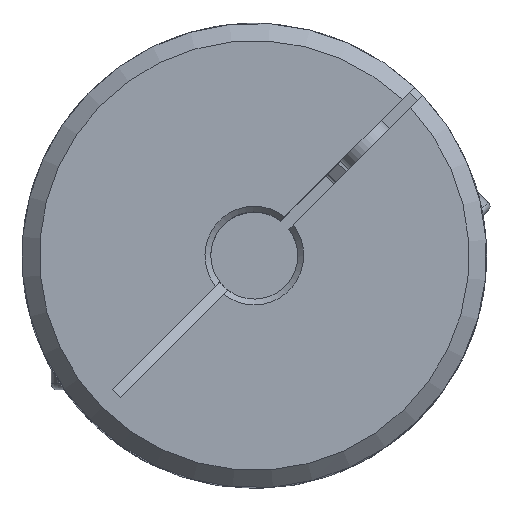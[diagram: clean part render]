
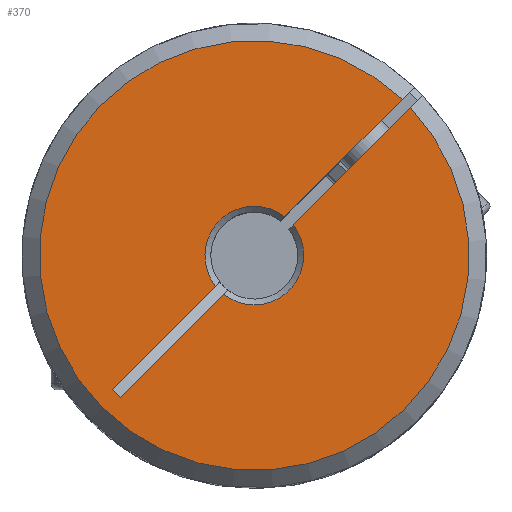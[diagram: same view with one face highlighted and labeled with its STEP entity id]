
A CAD part, top view. The second image highlights one B-rep face of the part: STEP entity #370.
In plain terms, the highlighted planar face has unit normal (0, 0, 1) as drawn and (0, 0, -1) by its records, which use the part's own axes.
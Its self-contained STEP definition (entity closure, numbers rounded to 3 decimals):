
#370 = ADVANCED_FACE( '', ( #716 ), #717, .T. );
#716 = FACE_OUTER_BOUND( '', #1149, .T. );
#717 = PLANE( '', #1150 );
#1149 = EDGE_LOOP( '', ( #1644, #1645, #1646, #1647, #1648, #1649, #1650, #1651 ) );
#1150 = AXIS2_PLACEMENT_3D( '', #1652, #1653, #1654 );
#1644 = ORIENTED_EDGE( '', *, *, #3073, .F. );
#1645 = ORIENTED_EDGE( '', *, *, #3074, .T. );
#1646 = ORIENTED_EDGE( '', *, *, #3075, .T. );
#1647 = ORIENTED_EDGE( '', *, *, #3076, .T. );
#1648 = ORIENTED_EDGE( '', *, *, #3077, .T. );
#1649 = ORIENTED_EDGE( '', *, *, #3070, .T. );
#1650 = ORIENTED_EDGE( '', *, *, #3067, .F. );
#1651 = ORIENTED_EDGE( '', *, *, #3078, .T. );
#1652 = CARTESIAN_POINT( '', ( 0., 0., 0. ) );
#1653 = DIRECTION( '', ( 0., 0., -1. ) );
#1654 = DIRECTION( '', ( -1., 0., 0. ) );
#3067 = EDGE_CURVE( '', #3553, #3556, #3557, .T. );
#3070 = EDGE_CURVE( '', #3561, #3556, #3562, .T. );
#3073 = EDGE_CURVE( '', #3566, #3567, #3568, .T. );
#3074 = EDGE_CURVE( '', #3566, #3569, #3570, .T. );
#3075 = EDGE_CURVE( '', #3569, #3571, #3572, .T. );
#3076 = EDGE_CURVE( '', #3571, #3573, #3574, .F. );
#3077 = EDGE_CURVE( '', #3573, #3561, #3575, .T. );
#3078 = EDGE_CURVE( '', #3553, #3567, #3576, .F. );
#3553 = VERTEX_POINT( '', #4448 );
#3556 = VERTEX_POINT( '', #4454 );
#3557 = LINE( '', #4455, #4456 );
#3561 = VERTEX_POINT( '', #4461 );
#3562 = LINE( '', #4462, #4463 );
#3566 = VERTEX_POINT( '', #4470 );
#3567 = VERTEX_POINT( '', #4471 );
#3568 = LINE( '', #4472, #4473 );
#3569 = VERTEX_POINT( '', #4474 );
#3570 = CIRCLE( '', #4475, 37. );
#3571 = VERTEX_POINT( '', #4476 );
#3572 = LINE( '', #4477, #4478 );
#3573 = VERTEX_POINT( '', #4479 );
#3574 = CIRCLE( '', #4480, 8.5 );
#3575 = LINE( '', #4481, #4482 );
#3576 = CIRCLE( '', #4483, 8.5 );
#4448 = CARTESIAN_POINT( '', ( 8.441, 1., 0. ) );
#4454 = CARTESIAN_POINT( '', ( 33.604, 1., 0. ) );
#4455 = CARTESIAN_POINT( '', ( -40., 1., 0. ) );
#4456 = VECTOR( '', #5505, 1000. );
#4461 = CARTESIAN_POINT( '', ( 33.604, -1., 0. ) );
#4462 = CARTESIAN_POINT( '', ( 33.604, -1., 0. ) );
#4463 = VECTOR( '', #5510, 1000. );
#4470 = CARTESIAN_POINT( '', ( -36.986, 1., 0. ) );
#4471 = CARTESIAN_POINT( '', ( -8.441, 1., 0. ) );
#4472 = CARTESIAN_POINT( '', ( -40., 1., 0. ) );
#4473 = VECTOR( '', #5514, 1000. );
#4474 = CARTESIAN_POINT( '', ( -36.986, -1., 0. ) );
#4475 = AXIS2_PLACEMENT_3D( '', #5515, #5516, #5517 );
#4476 = CARTESIAN_POINT( '', ( -8.441, -1., 0. ) );
#4477 = CARTESIAN_POINT( '', ( -40., -1., 0. ) );
#4478 = VECTOR( '', #5518, 1000. );
#4479 = CARTESIAN_POINT( '', ( 8.441, -1., 0. ) );
#4480 = AXIS2_PLACEMENT_3D( '', #5519, #5520, #5521 );
#4481 = CARTESIAN_POINT( '', ( -40., -1., 0. ) );
#4482 = VECTOR( '', #5522, 1000. );
#4483 = AXIS2_PLACEMENT_3D( '', #5523, #5524, #5525 );
#5505 = DIRECTION( '', ( 1., 0., 0. ) );
#5510 = DIRECTION( '', ( 0., 1., 0. ) );
#5514 = DIRECTION( '', ( 1., 0., 0. ) );
#5515 = CARTESIAN_POINT( '', ( 0., 0., 0. ) );
#5516 = DIRECTION( '', ( 0., 0., -1. ) );
#5517 = DIRECTION( '', ( -1., 0., 0. ) );
#5518 = DIRECTION( '', ( 1., 0., 0. ) );
#5519 = CARTESIAN_POINT( '', ( 0., 0., 0. ) );
#5520 = DIRECTION( '', ( 0., 0., -1. ) );
#5521 = DIRECTION( '', ( -1., 0., 0. ) );
#5522 = DIRECTION( '', ( 1., 0., 0. ) );
#5523 = CARTESIAN_POINT( '', ( 0., 0., 0. ) );
#5524 = DIRECTION( '', ( 0., 0., -1. ) );
#5525 = DIRECTION( '', ( -1., 0., 0. ) );
